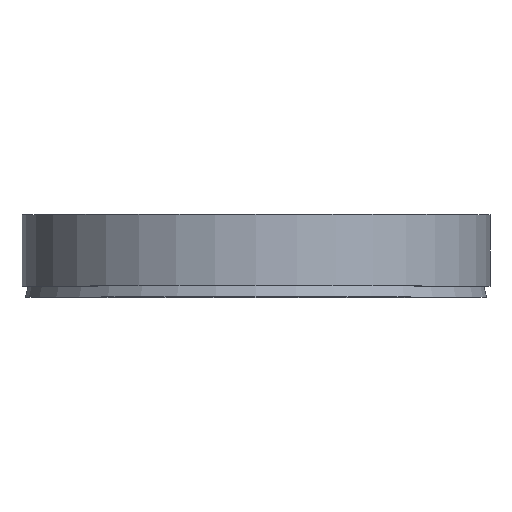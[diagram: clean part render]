
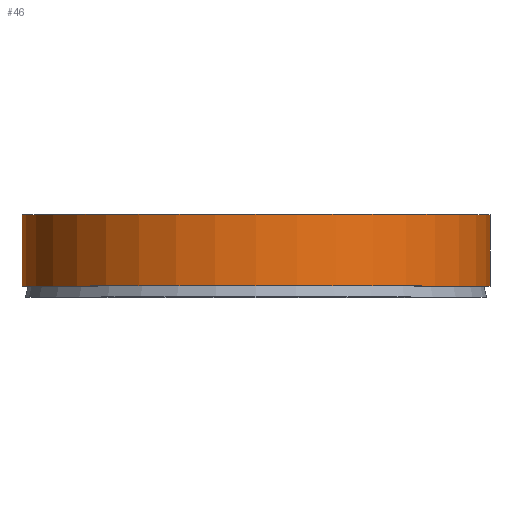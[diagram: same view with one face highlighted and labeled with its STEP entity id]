
A CAD part, top view. The second image highlights one B-rep face of the part: STEP entity #46.
In plain terms, the highlighted cylindrical face has radius 34 mm (diameter 68 mm), a full revolution.
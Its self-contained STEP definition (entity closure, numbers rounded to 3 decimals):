
#46 = ADVANCED_FACE( '', ( #93, #94 ), #95, .T. );
#93 = FACE_OUTER_BOUND( '', #132, .T. );
#94 = FACE_OUTER_BOUND( '', #133, .T. );
#95 = CYLINDRICAL_SURFACE( '', #134, 34. );
#132 = EDGE_LOOP( '', ( #179 ) );
#133 = EDGE_LOOP( '', ( #180 ) );
#134 = AXIS2_PLACEMENT_3D( '', #181, #182, #183 );
#179 = ORIENTED_EDGE( '', *, *, #189, .F. );
#180 = ORIENTED_EDGE( '', *, *, #198, .T. );
#181 = CARTESIAN_POINT( '', ( 0., -60., 0. ) );
#182 = DIRECTION( '', ( 0., 1., 0. ) );
#183 = DIRECTION( '', ( 0., 0., -1. ) );
#189 = EDGE_CURVE( '', #208, #208, #209, .T. );
#198 = EDGE_CURVE( '', #221, #221, #222, .T. );
#208 = VERTEX_POINT( '', #232 );
#209 = CIRCLE( '', #233, 34. );
#221 = VERTEX_POINT( '', #245 );
#222 = CIRCLE( '', #246, 34. );
#232 = CARTESIAN_POINT( '', ( 0., 1.6, -34. ) );
#233 = AXIS2_PLACEMENT_3D( '', #257, #258, #259 );
#245 = CARTESIAN_POINT( '', ( 0., 12., -34. ) );
#246 = AXIS2_PLACEMENT_3D( '', #269, #270, #271 );
#257 = CARTESIAN_POINT( '', ( 0., 1.6, 0. ) );
#258 = DIRECTION( '', ( 0., -1., 0. ) );
#259 = DIRECTION( '', ( 0., 0., -1. ) );
#269 = CARTESIAN_POINT( '', ( 0., 12., 0. ) );
#270 = DIRECTION( '', ( 0., -1., 0. ) );
#271 = DIRECTION( '', ( 0., 0., -1. ) );
